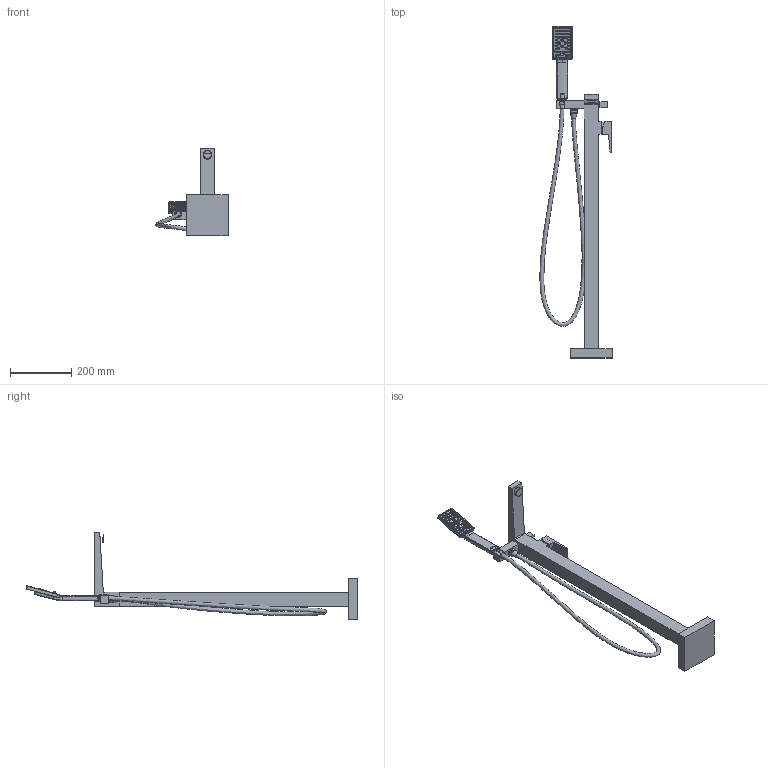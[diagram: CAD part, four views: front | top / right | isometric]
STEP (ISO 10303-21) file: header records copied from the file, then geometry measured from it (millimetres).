
FILE_DESCRIPTION(/* description */ (''),/* implementation_level */ '2;1');
FILE_NAME(/* name */ 'c:\worker\convert-fusion-jan-2019\tmp\job-1\533\output\files\675c0eb6-6b5a-4e54-8acd-e37764958e1d\4053ce03-b1aa-4fe1-89a1-c98f8d1075c8.stp',/* time_stamp */ '2019-01-08T12:51:43+00:00',/* author */ (''),/* organization */ (''),/* preprocessor_version */ 'ST-DEVELOPER v17.2',/* originating_system */ 'Autodesk Translation Framework v7.6.0.251',/* authorisation */ '');
FILE_SCHEMA (('AUTOMOTIVE_DESIGN { 1 0 10303 214 3 1 1 }'));
Products named in the file (2): !FR7133; !JimJim-R v2
Assembly tree (1 placements, depth 2):
  !FR7133
    !JimJim-R v2
Bounding box: 235.02 x 1081.54 x 286.54 mm (x, y, z)
Volume: 2930134.1 mm3; surface area: 443537.8 mm2
Topology: 23 solids, 23 shells, 5048 faces, 12885 edges, 7978 vertices
Faces by surface type: plane 1675, cylinder 1408, cone 821, torus 695, bspline 433, sphere 16
Full cylindrical faces by diameter (mm): 1.7 x8, 2.6 x8, 3.5 x2, 4.5 x1, 6.2 x1, 9.684 x1, 10.3 x1, 11.8 x1, 12 x1, 12.8 x1, 13.514 x1, 13.6 x1, 18.4 x1, 18.583 x1, 20 x1, 20.554 x1, 20.955 x4, 23.087 x1, 26.509 x1, 37.124 x2
Entity records: 175735 total; most frequent: CARTESIAN_POINT 51700, DIRECTION 27137, ORIENTED_EDGE 25752, EDGE_CURVE 12876, AXIS2_PLACEMENT_3D 10314, VERTEX_POINT 7978, LINE 6509, VECTOR 6509
